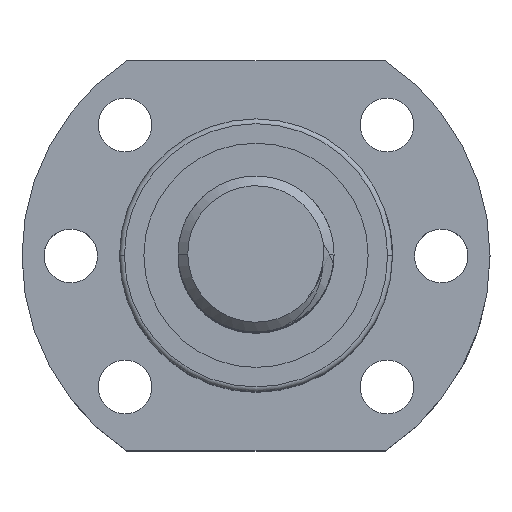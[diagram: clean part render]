
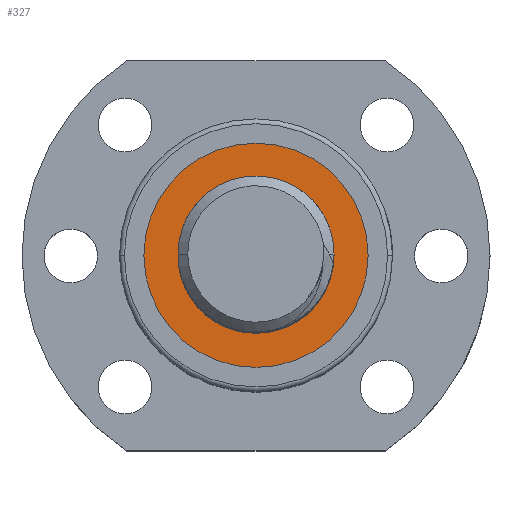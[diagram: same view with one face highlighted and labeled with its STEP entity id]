
A CAD part, top view. The second image highlights one B-rep face of the part: STEP entity #327.
In plain terms, the highlighted planar face has unit normal (0, 0, 1) as drawn and (0, 1, 0) by its records, which use the part's own axes.
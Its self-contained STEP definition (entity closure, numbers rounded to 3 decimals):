
#33 = ORIENTED_EDGE ( 'NONE', *, *, #5202, .T. ) ;
#327 = ADVANCED_FACE ( 'NONE', ( #17840, #4131 ), #10242, .T. ) ;
#834 = DIRECTION ( 'NONE',  ( 0., -1., 0. ) ) ;
#1107 = DIRECTION ( 'NONE',  ( 1., 0., 0. ) ) ;
#2156 = VERTEX_POINT ( 'NONE', #8178 ) ;
#2175 = AXIS2_PLACEMENT_3D ( 'NONE', #9945, #3835, #16040 ) ;
#2476 = AXIS2_PLACEMENT_3D ( 'NONE', #17936, #19450, #16336 ) ;
#3835 = DIRECTION ( 'NONE',  ( 0., -1., 0. ) ) ;
#4131 = FACE_BOUND ( 'NONE', #15286, .T. ) ;
#4732 = EDGE_CURVE ( 'NONE', #13595, #9343, #5989, .T. ) ;
#4843 = CARTESIAN_POINT ( 'NONE',  ( 0., 22.5, -8. ) ) ;
#5032 = CARTESIAN_POINT ( 'NONE',  ( 0., 22.5, 8. ) ) ;
#5202 = EDGE_CURVE ( 'NONE', #9343, #13595, #13335, .T. ) ;
#5989 = CIRCLE ( 'NONE', #2175, 8. ) ;
#6317 = CIRCLE ( 'NONE', #7604, 11.5 ) ;
#6948 = DIRECTION ( 'NONE',  ( 1., 0., 0. ) ) ;
#7163 = EDGE_LOOP ( 'NONE', ( #16107, #8469 ) ) ;
#7604 = AXIS2_PLACEMENT_3D ( 'NONE', #16615, #19532, #10232 ) ;
#8151 = CARTESIAN_POINT ( 'NONE',  ( 0., 22.5, 0. ) ) ;
#8178 = CARTESIAN_POINT ( 'NONE',  ( 0., 22.5, -11.5 ) ) ;
#8266 = AXIS2_PLACEMENT_3D ( 'NONE', #8524, #8726, #1107 ) ;
#8469 = ORIENTED_EDGE ( 'NONE', *, *, #12334, .T. ) ;
#8524 = CARTESIAN_POINT ( 'NONE',  ( 0., 22.5, 0. ) ) ;
#8726 = DIRECTION ( 'NONE',  ( 0., 1., 0. ) ) ;
#9343 = VERTEX_POINT ( 'NONE', #5032 ) ;
#9945 = CARTESIAN_POINT ( 'NONE',  ( 0., 22.5, 0. ) ) ;
#10232 = DIRECTION ( 'NONE',  ( 1., 0., 0. ) ) ;
#10242 = PLANE ( 'NONE',  #2476 ) ;
#11735 = AXIS2_PLACEMENT_3D ( 'NONE', #8151, #834, #6948 ) ;
#12334 = EDGE_CURVE ( 'NONE', #17433, #2156, #6317, .T. ) ;
#13190 = ORIENTED_EDGE ( 'NONE', *, *, #4732, .T. ) ;
#13335 = CIRCLE ( 'NONE', #11735, 8. ) ;
#13595 = VERTEX_POINT ( 'NONE', #4843 ) ;
#15286 = EDGE_LOOP ( 'NONE', ( #13190, #33 ) ) ;
#16040 = DIRECTION ( 'NONE',  ( 1., 0., 0. ) ) ;
#16107 = ORIENTED_EDGE ( 'NONE', *, *, #16592, .T. ) ;
#16336 = DIRECTION ( 'NONE',  ( 1., 0., 0. ) ) ;
#16592 = EDGE_CURVE ( 'NONE', #2156, #17433, #16891, .T. ) ;
#16615 = CARTESIAN_POINT ( 'NONE',  ( 0., 22.5, 0. ) ) ;
#16737 = CARTESIAN_POINT ( 'NONE',  ( 0., 22.5, 11.5 ) ) ;
#16891 = CIRCLE ( 'NONE', #8266, 11.5 ) ;
#17433 = VERTEX_POINT ( 'NONE', #16737 ) ;
#17840 = FACE_OUTER_BOUND ( 'NONE', #7163, .T. ) ;
#17936 = CARTESIAN_POINT ( 'NONE',  ( 0., 22.5, 0. ) ) ;
#19450 = DIRECTION ( 'NONE',  ( 0., 1., 0. ) ) ;
#19532 = DIRECTION ( 'NONE',  ( 0., 1., 0. ) ) ;
